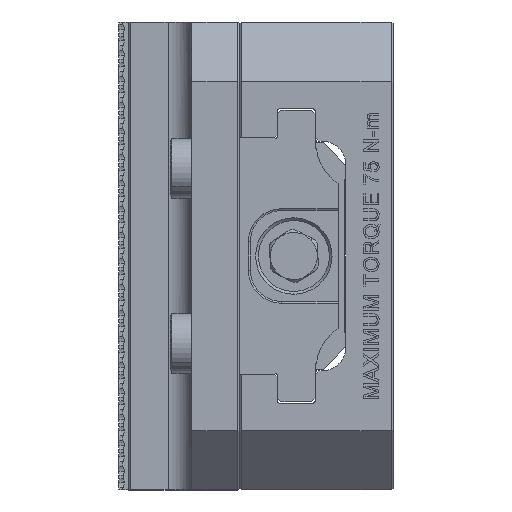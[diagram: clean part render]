
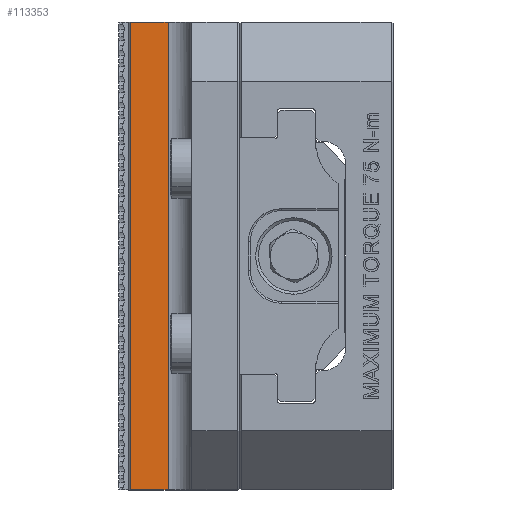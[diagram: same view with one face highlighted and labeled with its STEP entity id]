
A CAD part, left-side view. The second image highlights one B-rep face of the part: STEP entity #113353.
In plain terms, the highlighted planar face has unit normal (-1, 0, 0) as drawn and (1, 0, 0) by its records, which use the part's own axes.
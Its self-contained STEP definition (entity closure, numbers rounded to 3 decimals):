
#536 = VERTEX_POINT ( 'NONE', #68840 ) ;
#2127 = EDGE_CURVE ( 'NONE', #70467, #113460, #37306, .T. ) ;
#2576 = ORIENTED_EDGE ( 'NONE', *, *, #64166, .T. ) ;
#8282 = EDGE_CURVE ( 'NONE', #536, #113460, #19242, .T. ) ;
#8413 = CARTESIAN_POINT ( 'NONE',  ( -3.747, 13.629, 62.865 ) ) ;
#9576 = LINE ( 'NONE', #30221, #82875 ) ;
#10973 = DIRECTION ( 'NONE',  ( 0., 1., 0. ) ) ;
#11613 = AXIS2_PLACEMENT_3D ( 'NONE', #8413, #75341, #18048 ) ;
#18048 = DIRECTION ( 'NONE',  ( 0., -1., 0. ) ) ;
#19242 = LINE ( 'NONE', #117568, #47692 ) ;
#27270 = CARTESIAN_POINT ( 'NONE',  ( -3.747, 13.121, -62.865 ) ) ;
#28303 = VERTEX_POINT ( 'NONE', #116832 ) ;
#28897 = CARTESIAN_POINT ( 'NONE',  ( -3.747, 13.121, 62.865 ) ) ;
#29233 = LINE ( 'NONE', #123977, #108476 ) ;
#30221 = CARTESIAN_POINT ( 'NONE',  ( -3.747, 13.629, -62.865 ) ) ;
#37306 = LINE ( 'NONE', #43561, #85160 ) ;
#37376 = FACE_OUTER_BOUND ( 'NONE', #61353, .T. ) ;
#43561 = CARTESIAN_POINT ( 'NONE',  ( -3.747, 13.121, 62.865 ) ) ;
#47692 = VECTOR ( 'NONE', #60421, 1000. ) ;
#60421 = DIRECTION ( 'NONE',  ( 0., 1., 0. ) ) ;
#61353 = EDGE_LOOP ( 'NONE', ( #123113, #76413, #79252, #2576 ) ) ;
#62807 = DIRECTION ( 'NONE',  ( 0., 0., 1. ) ) ;
#64166 = EDGE_CURVE ( 'NONE', #536, #28303, #29233, .T. ) ;
#68840 = CARTESIAN_POINT ( 'NONE',  ( -3.746, 2.921, 62.865 ) ) ;
#70467 = VERTEX_POINT ( 'NONE', #27270 ) ;
#75341 = DIRECTION ( 'NONE',  ( -1., 0., 0. ) ) ;
#76413 = ORIENTED_EDGE ( 'NONE', *, *, #2127, .T. ) ;
#79252 = ORIENTED_EDGE ( 'NONE', *, *, #8282, .F. ) ;
#82875 = VECTOR ( 'NONE', #10973, 1000. ) ;
#85160 = VECTOR ( 'NONE', #62807, 1000. ) ;
#88166 = EDGE_CURVE ( 'NONE', #28303, #70467, #9576, .T. ) ;
#95220 = DIRECTION ( 'NONE',  ( 0., 0., -1. ) ) ;
#108476 = VECTOR ( 'NONE', #95220, 1000. ) ;
#113267 = PLANE ( 'NONE',  #11613 ) ;
#113353 = ADVANCED_FACE ( 'NONE', ( #37376 ), #113267, .F. ) ;
#113460 = VERTEX_POINT ( 'NONE', #28897 ) ;
#116832 = CARTESIAN_POINT ( 'NONE',  ( -3.746, 2.921, -62.865 ) ) ;
#117568 = CARTESIAN_POINT ( 'NONE',  ( -3.747, 13.629, 62.865 ) ) ;
#123113 = ORIENTED_EDGE ( 'NONE', *, *, #88166, .T. ) ;
#123977 = CARTESIAN_POINT ( 'NONE',  ( -3.746, 2.921, 62.865 ) ) ;
